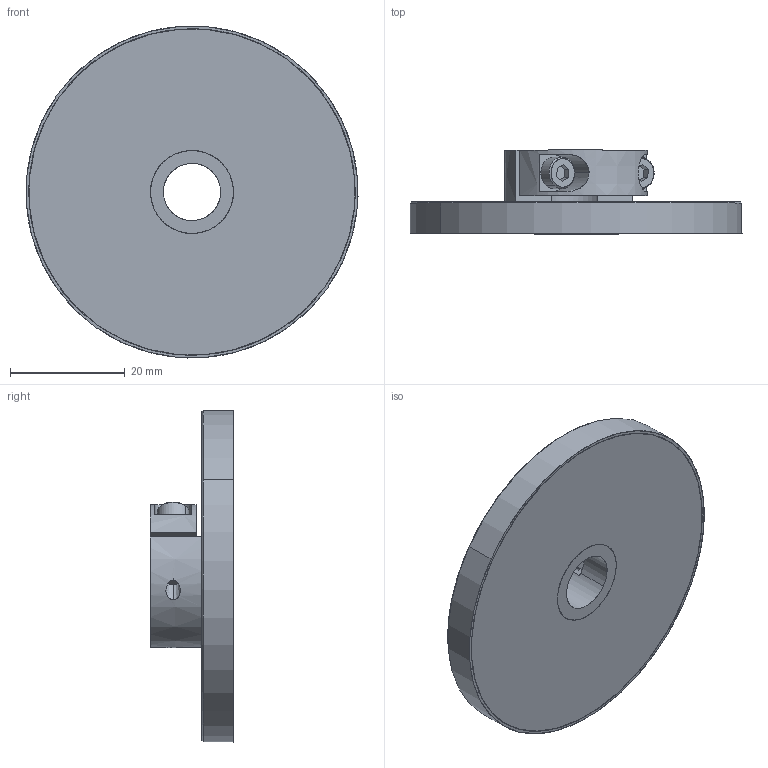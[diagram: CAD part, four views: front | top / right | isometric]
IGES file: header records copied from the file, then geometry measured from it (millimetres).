
Start section: SolidWorks IGES file using analytic representation for surfaces
Global section: file name: C:\Zettlex Data\Mechanical Drawings\1615\58mm Shaft Clamp Rotor 10.00mm Rev 1-0.IGS; native system: SolidWorks 2015; preprocessor: SolidWorks 2015; author: Nigel; date: 150907.174240; units: millimetre
Bounding box: 57.98 x 14.6 x 57.98 mm (x, y, z)
Surface area: 8621.2 mm2 (no closed solid volume)
Topology: 0 solids, 0 shells, 808 faces, 9845 edges, 9845 vertices
Faces by surface type: bspline 760, revolution 48
